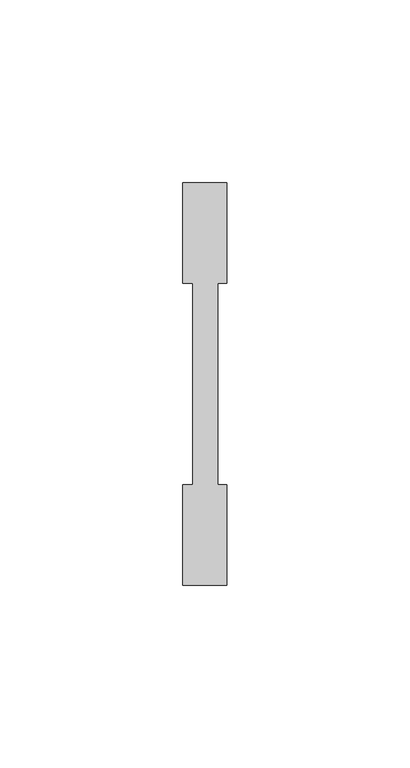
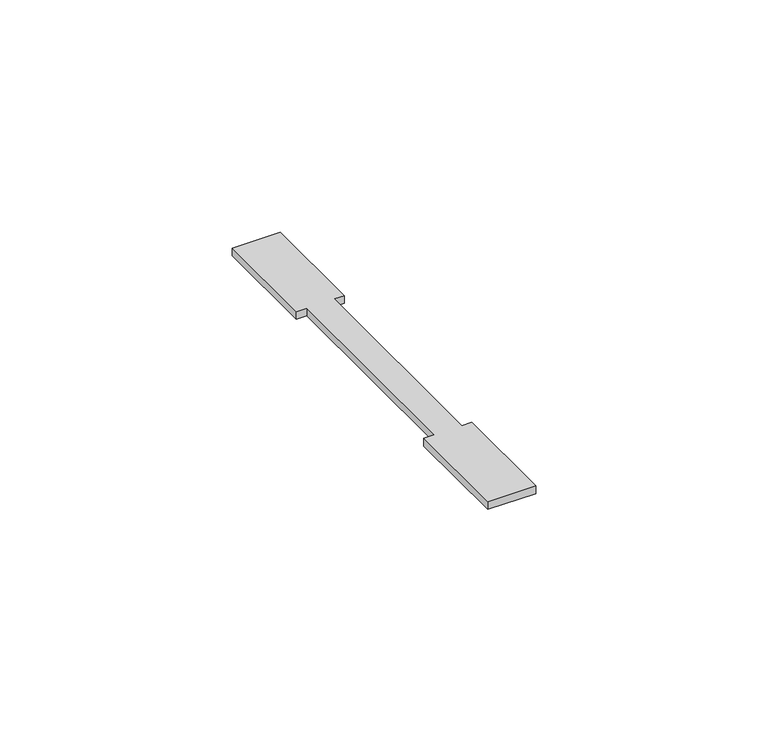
"""IFC4 building model written with IfcOpenShell, lengths in millimetres: duct fitting geometry, Скоба - для кабель-каналов DLP с шириной крышки 130-180 мм : Скоба - для кабель-каналов DLP с шириной крышки 130-180 мм."""

from ifc_helpers import new_model, si_unit, origin, origin_with_axes, place, context, project, spatial, polyline, outline, extrude, source, transform, mapped, element, save


def duct_fitting_31fdbf1f(model_context):
    return source(origin(), model_context, "Body", "SweptSolid", [
        extrude(outline(polyline([(-6.0, 27.5), (-6.0, 55.0), (6.0, 55.0), (6.0, 27.5), (3.4820113, 27.5), (3.4820113, -27.5), (6.0, -27.5), (6.0, -55.0), (-6.0, -55.0), (-6.0, -27.5), (-3.3298276, -27.5), (-3.3298276, 27.5), (-6.0, 27.5)])), origin_with_axes(), (0.0, 0.0, 1.0), 2.0),
    ])


if __name__ == "__main__":
    model = new_model("IFC4")
    model_context = context("Model", 3, world=origin())
    ifc_project = project(units=[si_unit("LENGTHUNIT", "METRE", prefix="MILLI")], contexts=[model_context])
    site = spatial("IfcSite", under=ifc_project)
    building = spatial("IfcBuilding", under=site)
    placement = place(None, origin())
    duct_fitting_shape = duct_fitting_31fdbf1f(model_context)
    element("IfcDuctFitting", 1, ObjectType="Скоба - для кабель-каналов DLP с шириной крышки 130-180 мм : Скоба - для кабель-каналов DLP с шириной крышки 130-180 мм", at=placement, inside=building, context=model_context, shape_type="MappedRepresentation", body=[
        mapped(duct_fitting_shape, transform((0.0, 0.0, 0.0), x_axis=(1.0, 0.0, 0.0), y_axis=(0.0, 1.0, 0.0), z_axis=(0.0, 0.0, 1.0))),
    ])
    save(model, "model.ifc")
